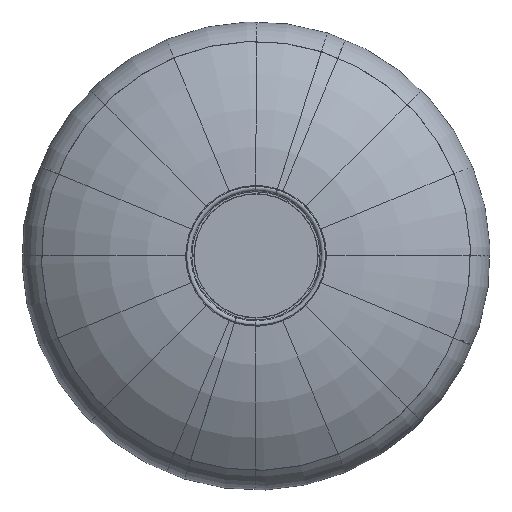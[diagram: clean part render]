
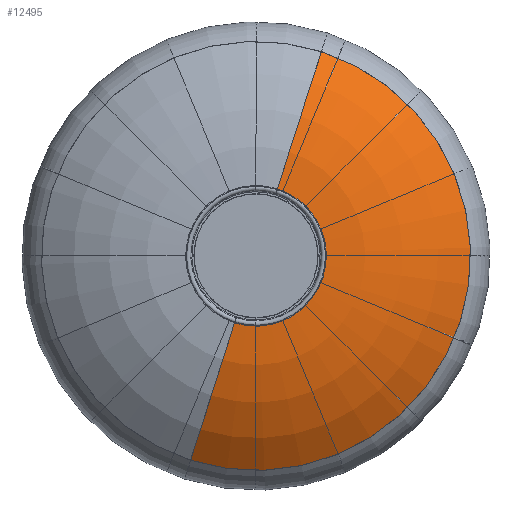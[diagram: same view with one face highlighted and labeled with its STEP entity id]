
A CAD part, top view. The second image highlights one B-rep face of the part: STEP entity #12495.
In plain terms, the highlighted toroidal (fillet/blend) face has major radius 87.5 mm and minor radius 302.5 mm.
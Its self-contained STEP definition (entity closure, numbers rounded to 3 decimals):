
#191 = CARTESIAN_POINT ( 'NONE',  ( 0., -2.485, 0. ) ) ;
#488 = ORIENTED_EDGE ( 'NONE', *, *, #4708, .T. ) ;
#1341 = DIRECTION ( 'NONE',  ( 0., 1., 0. ) ) ;
#1505 = CARTESIAN_POINT ( 'NONE',  ( 0., -2.485, -90.505 ) ) ;
#2609 = DIRECTION ( 'NONE',  ( 0., 1., 0. ) ) ;
#3064 = CIRCLE ( 'NONE', #6293, 276.042 ) ;
#3390 = AXIS2_PLACEMENT_3D ( 'NONE', #14447, #13300, #13246 ) ;
#3448 = CARTESIAN_POINT ( 'NONE',  ( 0., 63.445, 276.042 ) ) ;
#3600 = CIRCLE ( 'NONE', #8096, 302.5 ) ;
#4366 = EDGE_CURVE ( 'NONE', #5591, #5052, #3064, .T. ) ;
#4404 = EDGE_CURVE ( 'NONE', #15660, #7116, #9885, .T. ) ;
#4708 = EDGE_CURVE ( 'NONE', #7116, #5052, #6607, .T. ) ;
#4732 = DIRECTION ( 'NONE',  ( 1., 0., 0. ) ) ;
#4849 = FACE_OUTER_BOUND ( 'NONE', #7333, .T. ) ;
#5052 = VERTEX_POINT ( 'NONE', #9776 ) ;
#5591 = VERTEX_POINT ( 'NONE', #3448 ) ;
#5975 = ORIENTED_EDGE ( 'NONE', *, *, #4366, .F. ) ;
#6293 = AXIS2_PLACEMENT_3D ( 'NONE', #7396, #2609, #7343 ) ;
#6505 = CARTESIAN_POINT ( 'NONE',  ( 0., -2.485, 90.505 ) ) ;
#6607 = CIRCLE ( 'NONE', #8932, 302.5 ) ;
#6748 = TOROIDAL_SURFACE ( 'NONE', #3390, 87.5, 302.5 ) ;
#7116 = VERTEX_POINT ( 'NONE', #1505 ) ;
#7158 = DIRECTION ( 'NONE',  ( 0., 0., -1. ) ) ;
#7333 = EDGE_LOOP ( 'NONE', ( #10005, #488, #5975, #9868 ) ) ;
#7343 = DIRECTION ( 'NONE',  ( 0., 0., 1. ) ) ;
#7396 = CARTESIAN_POINT ( 'NONE',  ( 0., 63.445, 0. ) ) ;
#8096 = AXIS2_PLACEMENT_3D ( 'NONE', #8122, #10423, #11822 ) ;
#8122 = CARTESIAN_POINT ( 'NONE',  ( 0., 300., 87.5 ) ) ;
#8932 = AXIS2_PLACEMENT_3D ( 'NONE', #15539, #4732, #7158 ) ;
#9444 = EDGE_CURVE ( 'NONE', #15660, #5591, #3600, .T. ) ;
#9776 = CARTESIAN_POINT ( 'NONE',  ( 0., 63.445, -276.042 ) ) ;
#9868 = ORIENTED_EDGE ( 'NONE', *, *, #9444, .F. ) ;
#9885 = CIRCLE ( 'NONE', #13282, 90.505 ) ;
#10005 = ORIENTED_EDGE ( 'NONE', *, *, #4404, .T. ) ;
#10423 = DIRECTION ( 'NONE',  ( -1., 0., 0. ) ) ;
#11822 = DIRECTION ( 'NONE',  ( 0., 0., 1. ) ) ;
#12291 = DIRECTION ( 'NONE',  ( 0., 0., 1. ) ) ;
#12495 = ADVANCED_FACE ( 'NONE', ( #4849 ), #6748, .T. ) ;
#13246 = DIRECTION ( 'NONE',  ( 0., 0., 1. ) ) ;
#13282 = AXIS2_PLACEMENT_3D ( 'NONE', #191, #1341, #12291 ) ;
#13300 = DIRECTION ( 'NONE',  ( 0., 1., 0. ) ) ;
#14447 = CARTESIAN_POINT ( 'NONE',  ( 0., 300., 0. ) ) ;
#15539 = CARTESIAN_POINT ( 'NONE',  ( 0., 300., -87.5 ) ) ;
#15660 = VERTEX_POINT ( 'NONE', #6505 ) ;
